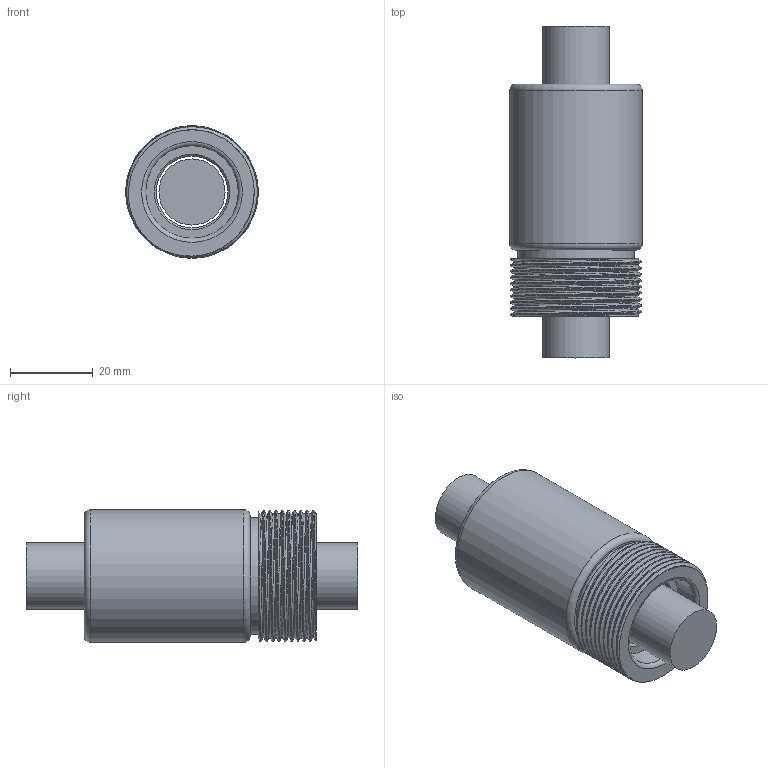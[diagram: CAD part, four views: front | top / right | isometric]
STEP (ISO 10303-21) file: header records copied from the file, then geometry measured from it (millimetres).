
FILE_DESCRIPTION(/* description */ (''),/* implementation_level */ '2;1');
FILE_NAME(/* name */ '1605.prt.step',/* time_stamp */ '2008-12-05T09:41:34+08:00',/* author */ (''),/* organization */ (''),/* preprocessor_version */ 'ST-DEVELOPER v11',/* originating_system */ 'SIEMENS UGS NX 6.0',/* authorisation */ '');
FILE_SCHEMA (('AUTOMOTIVE_DESIGN { 1 0 10303 214 1 1 1 1 }'));
Length unit declared in the file: millimetre
Products named in the file (1): 1605
Bounding box: 32 x 80 x 32 mm (x, y, z)
Volume: 44453.6 mm3; surface area: 15103.3 mm2
Topology: 2 solids, 2 shells, 25 faces, 48 edges, 31 vertices
Faces by surface type: cylinder 8, plane 8, torus 4, bspline 3, cone 2
Full cylindrical faces by diameter (mm): 15.95 x1, 17.2 x1, 22.3 x2, 28 x1, 32 x1
Entity records: 2222 total; most frequent: CARTESIAN_POINT 1756, DIRECTION 88, ORIENTED_EDGE 66, AXIS2_PLACEMENT_3D 44, EDGE_LOOP 43, FACE_BOUND 36, EDGE_CURVE 33, VERTEX_POINT 28
